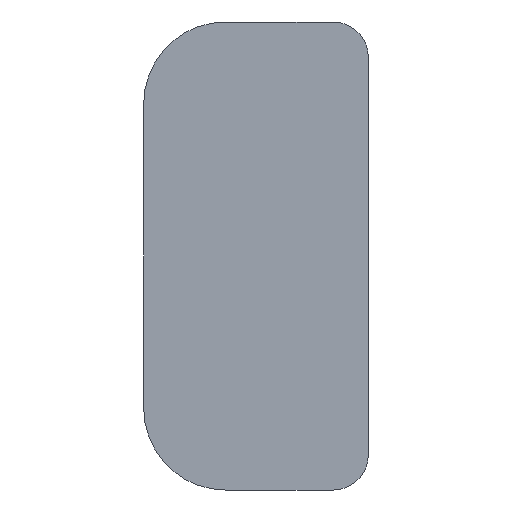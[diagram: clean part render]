
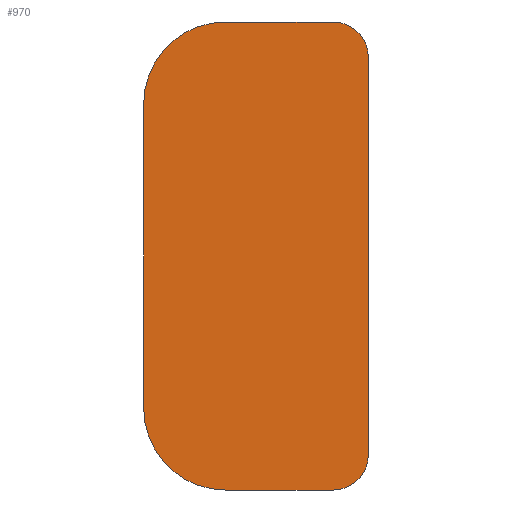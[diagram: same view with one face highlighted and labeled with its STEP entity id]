
A CAD part, left-side view. The second image highlights one B-rep face of the part: STEP entity #970.
In plain terms, the highlighted planar face has unit normal (-1, 0, 0).
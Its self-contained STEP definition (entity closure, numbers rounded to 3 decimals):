
#321=CARTESIAN_POINT('',(0.,1.3,6.5));
#322=DIRECTION('',(-1.,0.,0.));
#323=DIRECTION('',(0.,0.,1.));
#324=AXIS2_PLACEMENT_3D('',#321,#322,#323);
#326=DIRECTION('',(0.,-1.,0.));
#327=VECTOR('',#326,4.6);
#328=CARTESIAN_POINT('',(0.,1.3,10.));
#329=LINE('',#328,#327);
#330=CARTESIAN_POINT('',(0.,-3.3,8.5));
#331=DIRECTION('',(-1.,0.,0.));
#332=DIRECTION('',(0.,-1.,0.));
#333=AXIS2_PLACEMENT_3D('',#330,#331,#332);
#335=DIRECTION('',(0.,0.,-1.));
#336=VECTOR('',#335,17.);
#337=CARTESIAN_POINT('',(0.,-4.8,8.5));
#338=LINE('',#337,#336);
#339=CARTESIAN_POINT('',(0.,-3.3,-8.5));
#340=DIRECTION('',(-1.,0.,0.));
#341=DIRECTION('',(0.,0.,-1.));
#342=AXIS2_PLACEMENT_3D('',#339,#340,#341);
#344=DIRECTION('',(0.,1.,0.));
#345=VECTOR('',#344,4.6);
#346=CARTESIAN_POINT('',(0.,-3.3,-10.));
#347=LINE('',#346,#345);
#348=CARTESIAN_POINT('',(0.,1.3,-6.5));
#349=DIRECTION('',(-1.,0.,0.));
#350=DIRECTION('',(0.,1.,0.));
#351=AXIS2_PLACEMENT_3D('',#348,#349,#350);
#353=DIRECTION('',(0.,0.,1.));
#354=VECTOR('',#353,13.);
#355=CARTESIAN_POINT('',(0.,4.8,-6.5));
#356=LINE('',#355,#354);
#883=CARTESIAN_POINT('',(0.,1.3,10.));
#884=CARTESIAN_POINT('',(0.,4.8,6.5));
#885=VERTEX_POINT('',#883);
#886=VERTEX_POINT('',#884);
#891=CARTESIAN_POINT('',(0.,4.8,-6.5));
#892=CARTESIAN_POINT('',(0.,1.3,-10.));
#893=VERTEX_POINT('',#891);
#894=VERTEX_POINT('',#892);
#899=CARTESIAN_POINT('',(0.,-4.8,8.5));
#900=CARTESIAN_POINT('',(0.,-3.3,10.));
#901=VERTEX_POINT('',#899);
#902=VERTEX_POINT('',#900);
#907=CARTESIAN_POINT('',(0.,-3.3,-10.));
#908=CARTESIAN_POINT('',(0.,-4.8,-8.5));
#909=VERTEX_POINT('',#907);
#910=VERTEX_POINT('',#908);
#947=CARTESIAN_POINT('',(0.,0.,0.));
#948=DIRECTION('',(1.,0.,0.));
#949=DIRECTION('',(0.,0.,-1.));
#950=AXIS2_PLACEMENT_3D('',#947,#948,#949);
#951=PLANE('',#950);
#953=ORIENTED_EDGE('',*,*,#952,.F.);
#955=ORIENTED_EDGE('',*,*,#954,.T.);
#957=ORIENTED_EDGE('',*,*,#956,.F.);
#959=ORIENTED_EDGE('',*,*,#958,.T.);
#961=ORIENTED_EDGE('',*,*,#960,.F.);
#963=ORIENTED_EDGE('',*,*,#962,.T.);
#965=ORIENTED_EDGE('',*,*,#964,.F.);
#967=ORIENTED_EDGE('',*,*,#966,.T.);
#968=EDGE_LOOP('',(#953,#955,#957,#959,#961,#963,#965,#967));
#969=FACE_OUTER_BOUND('',#968,.F.);
#970=ADVANCED_FACE('',(#969),#951,.F.);
#325=CIRCLE('',#324,3.5);
#334=CIRCLE('',#333,1.5);
#343=CIRCLE('',#342,1.5);
#352=CIRCLE('',#351,3.5);
#952=EDGE_CURVE('',#885,#886,#325,.T.);
#954=EDGE_CURVE('',#885,#902,#329,.T.);
#956=EDGE_CURVE('',#901,#902,#334,.T.);
#958=EDGE_CURVE('',#901,#910,#338,.T.);
#960=EDGE_CURVE('',#909,#910,#343,.T.);
#962=EDGE_CURVE('',#909,#894,#347,.T.);
#964=EDGE_CURVE('',#893,#894,#352,.T.);
#966=EDGE_CURVE('',#893,#886,#356,.T.);
